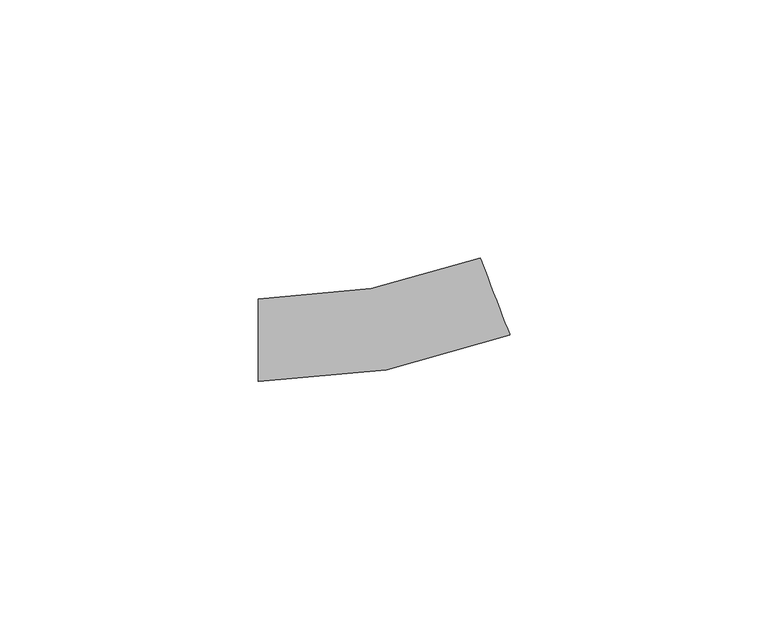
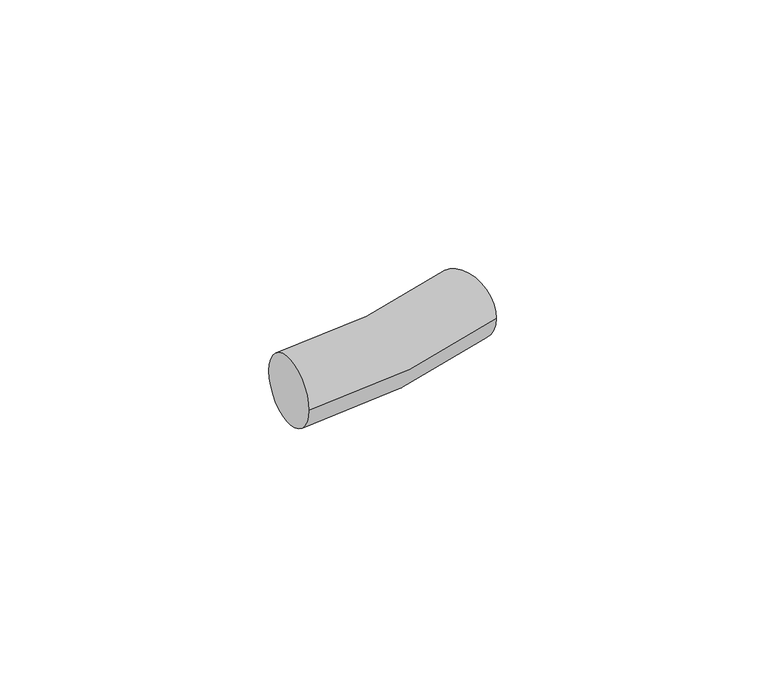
"""IFC4 building model written with IfcOpenShell, lengths in millimetres: pipe fitting geometry, USYSTEMS_Гнутая труба_Radi Pipe : PN 6 в бухтах."""

from ifc_helpers import new_model, si_unit, point, frame, origin, place, context, project, spatial, circle_curve, ellipse_curve, trimmed, source, transform, mapped, element, save
from ifc_brep_helpers import plane_surface, revolved_surface, advanced_brep


def pipe_fitting_daada113(model_context):
    return source(origin(), model_context, "Body", "AdvancedBrep", [
        advanced_brep(
        [(-23.7233978, -8.0, 0.0), (-23.7233978, 8.0, 0.0), (25.0146434, 1.033062, 0.0), (19.2807562, 15.9703488, 0.0)],
        [
            (0, 1, circle_curve(frame((-23.7233978, 0.0, 0.0), z_axis=(-1.0, 0.0, 0.0), x_axis=(0.0, 1.0, 0.0)), 8.0)),
            (1, 0, circle_curve(frame((-23.7233978, 0.0, 0.0), z_axis=(-1.0, 0.0, 0.0), x_axis=(0.0, 1.0, 0.0)), 8.0)),
            (2, 3, circle_curve(frame((22.1476998, 8.5017054, 0.0), z_axis=(0.9335804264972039, 0.3583679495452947, 0.0), x_axis=(-0.3583679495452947, 0.9335804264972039, 0.0)), 8.0)),
            (3, 2, circle_curve(frame((22.1476998, 8.5017054, 0.0), z_axis=(0.9335804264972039, 0.3583679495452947, 0.0), x_axis=(-0.3583679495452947, 0.9335804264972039, 0.0)), 8.0)),
            (3, 1, circle_curve(frame((-23.7233978, 128.0, 0.0), z_axis=(0.0, 0.0, -1.0), x_axis=(0.0, -1.0, 0.0)), 120.0)),
            (0, 2, circle_curve(frame((-23.7233978, 128.0, 0.0), z_axis=(0.0, 0.0, 1.0), x_axis=(0.0, -1.0, 0.0)), 136.0)),
        ],
        [
            plane_surface(frame((-23.7233978, 0.0, 0.0), z_axis=(-1.0, 0.0, 0.0), x_axis=(0.0, 0.0, 1.0))),
            plane_surface(frame((22.1476998, 8.5017054, 0.0), z_axis=(0.933580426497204, 0.3583679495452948, 0.0), x_axis=(0.0, 0.0, 1.0))),
            revolved_surface(trimmed(ellipse_curve(frame((-23.7233978, 0.0, 0.0), z_axis=(-1.0, 0.0, 0.0), x_axis=(0.0, 1.0, 0.0)), 8.0, 8.0), [point((-23.7233978, -8.0, 0.0))], [point((-23.7233978, 8.0, 0.0))], True, "CARTESIAN"), (-23.7233978, 128.0, 0.0), (0.0, 0.0, 1.0)),
            revolved_surface(trimmed(ellipse_curve(frame((-23.7233978, 0.0, 0.0), z_axis=(-1.0, 0.0, 0.0), x_axis=(0.0, 1.0, 0.0)), 8.0, 8.0), [point((-23.7233978, 8.0, 0.0))], [point((-23.7233978, -8.0, 0.0))], True, "CARTESIAN"), (-23.7233978, 128.0, 0.0), (0.0, 0.0, 1.0)),
        ],
        [
            (0, [[1, 2]]),
            (1, [[3, 4]]),
            (2, [[5, -1, 6, -4]]),
            (3, [[-6, -2, -5, -3]]),
        ],
    ),
    ])


if __name__ == "__main__":
    model = new_model("IFC4")
    model_context = context("Model", 3, world=origin())
    ifc_project = project(units=[si_unit("LENGTHUNIT", "METRE", prefix="MILLI")], contexts=[model_context])
    site = spatial("IfcSite", under=ifc_project)
    building = spatial("IfcBuilding", under=site)
    placement = place(None, origin())
    pipe_fitting_shape = pipe_fitting_daada113(model_context)
    element("IfcPipeFitting", 1, ObjectType="USYSTEMS_Гнутая труба_Radi Pipe : PN 6 в бухтах", at=placement, inside=building, context=model_context, shape_type="MappedRepresentation", body=[
        mapped(pipe_fitting_shape, transform((0.0, 0.0, 0.0), x_axis=(1.0, 0.0, 0.0), y_axis=(0.0, 1.0, 0.0), z_axis=(0.0, 0.0, 1.0))),
    ])
    save(model, "model.ifc")
